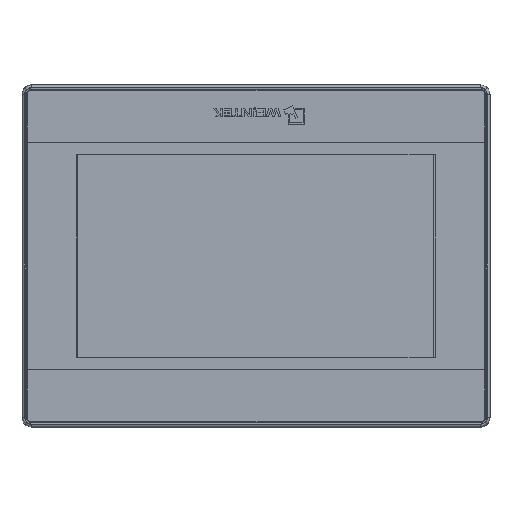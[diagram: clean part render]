
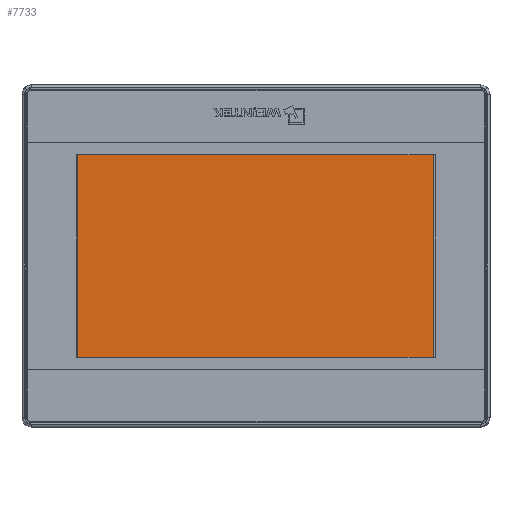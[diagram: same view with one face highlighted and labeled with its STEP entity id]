
A CAD part, top view. The second image highlights one B-rep face of the part: STEP entity #7733.
In plain terms, the highlighted planar face has unit normal (0, 0, 1).
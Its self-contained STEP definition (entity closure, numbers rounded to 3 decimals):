
#7476 = EDGE_CURVE ( 'NONE', #36509, #36495, #16025, .T. ) ;
#7477 = EDGE_CURVE ( 'NONE', #36506, #36509, #15980, .T. ) ;
#7478 = EDGE_CURVE ( 'NONE', #36495, #36493, #16037, .T. ) ;
#7733 = ADVANCED_FACE ( 'NONE', ( #38415 ), #38416, .T. ) ;
#8214 = EDGE_LOOP ( 'NONE', ( #32244, #32245, #32246, #32247 ) ) ;
#12605 = LINE ( 'NONE', #12606, #54228 ) ;
#12606 = CARTESIAN_POINT ( 'NONE',  ( 0.05, -45.55, 3.51 ) ) ;
#12608 = DIRECTION ( 'NONE',  ( 1., 0., 0. ) ) ;
#15311 = EDGE_CURVE ( 'NONE', #36493, #36506, #12605, .T. ) ;
#15980 = LINE ( 'NONE', #16032, #37817 ) ;
#16025 = LINE ( 'NONE', #16028, #37823 ) ;
#16028 = CARTESIAN_POINT ( 'NONE',  ( 0.05, 45.89, 3.51 ) ) ;
#16030 = DIRECTION ( 'NONE',  ( -1., 0., 0. ) ) ;
#16032 = CARTESIAN_POINT ( 'NONE',  ( 76.25, 0.17, 3.51 ) ) ;
#16035 = DIRECTION ( 'NONE',  ( 0., 1., 0. ) ) ;
#16037 = LINE ( 'NONE', #16039, #37828 ) ;
#16039 = CARTESIAN_POINT ( 'NONE',  ( -76.15, 0.17, 3.51 ) ) ;
#16041 = DIRECTION ( 'NONE',  ( 0., -1., 0. ) ) ;
#25277 = AXIS2_PLACEMENT_3D ( 'NONE', #38412, #38418, #38419 ) ;
#32244 = ORIENTED_EDGE ( 'NONE', *, *, #7477, .T. ) ;
#32245 = ORIENTED_EDGE ( 'NONE', *, *, #7476, .T. ) ;
#32246 = ORIENTED_EDGE ( 'NONE', *, *, #7478, .T. ) ;
#32247 = ORIENTED_EDGE ( 'NONE', *, *, #15311, .T. ) ;
#34493 = CARTESIAN_POINT ( 'NONE',  ( -76.15, -45.55, 3.51 ) ) ;
#34495 = CARTESIAN_POINT ( 'NONE',  ( -76.15, 45.89, 3.51 ) ) ;
#34506 = CARTESIAN_POINT ( 'NONE',  ( 76.25, -45.55, 3.51 ) ) ;
#34509 = CARTESIAN_POINT ( 'NONE',  ( 76.25, 45.89, 3.51 ) ) ;
#36493 = VERTEX_POINT ( 'NONE', #34493 ) ;
#36495 = VERTEX_POINT ( 'NONE', #34495 ) ;
#36506 = VERTEX_POINT ( 'NONE', #34506 ) ;
#36509 = VERTEX_POINT ( 'NONE', #34509 ) ;
#37817 = VECTOR ( 'NONE', #16035, 1000. ) ;
#37823 = VECTOR ( 'NONE', #16030, 1000. ) ;
#37828 = VECTOR ( 'NONE', #16041, 1000. ) ;
#38412 = CARTESIAN_POINT ( 'NONE',  ( 86.65, 53.57, 3.51 ) ) ;
#38415 = FACE_OUTER_BOUND ( 'NONE', #8214, .T. ) ;
#38416 = PLANE ( 'NONE',  #25277 ) ;
#38418 = DIRECTION ( 'NONE',  ( 0., 0., 1. ) ) ;
#38419 = DIRECTION ( 'NONE',  ( -1., 0., 0. ) ) ;
#54228 = VECTOR ( 'NONE', #12608, 1000. ) ;
